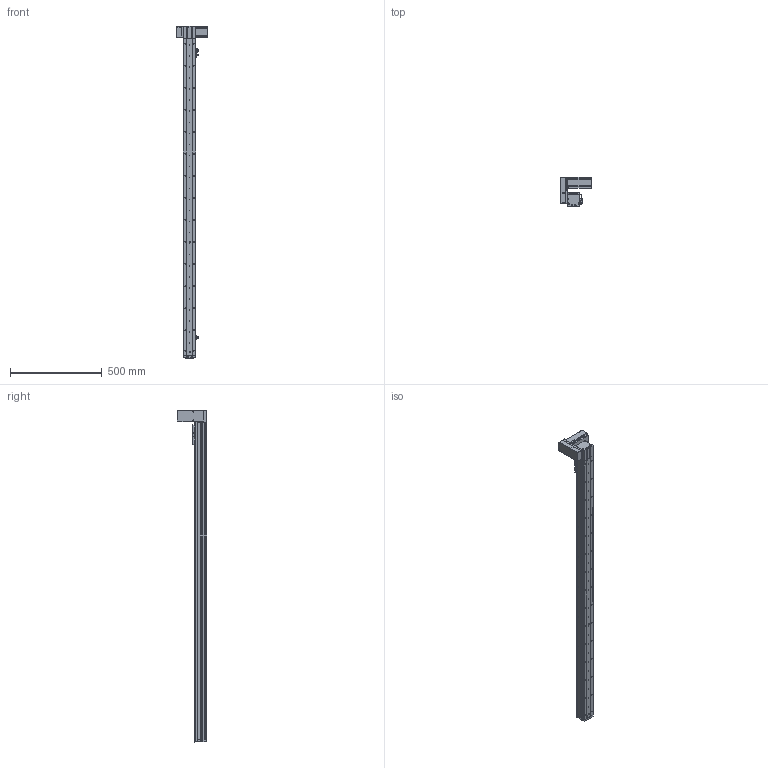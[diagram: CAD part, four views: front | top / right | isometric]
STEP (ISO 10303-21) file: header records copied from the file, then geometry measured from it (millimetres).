
FILE_DESCRIPTION (( 'STEP AP214' ), '1' );
FILE_NAME ('KSD68BS-S1550-MRU-CR.STEP', '2019-11-08T06:31:06', ( '微软用户' ), ( '微软中国' ), 'SwSTEP 2.0', 'SolidWorks 2014', '' );
FILE_SCHEMA (( 'AUTOMOTIVE_DESIGN' ));
Length unit declared in the file: millimetre
Products named in the file (14): KSD68BS 1550行程盖板全封闭; 68宽单导轨全封闭丝杆传动安装板1防护罩; 68遵裔啣揤啣1; KSD68BS 1550行程侧板全封闭; 68宽单导轨全封闭同步带端板; 68单导轨全封闭同步带电机座右; 68单导轨全封闭同步带安装板; 悵誘欶奻狟殏; 68宽马达安装板连板上折同步带; 感应片68宽全封闭; U倰嫖萇EEㄜSX672; 台达ECMA－C20604AS伺服电机（400W); KSD68BS 1550行程底板全封闭; KSD68BS-S1550-MRU-CR
Assembly tree (17 placements, depth 2):
  KSD68BS-S1550-MRU-CR
    KSD68BS 1550行程底板全封闭
    台达ECMA－C20604AS伺服电机（400W)
    U倰嫖萇EEㄜSX672  x3
    感应片68宽全封闭
    68宽马达安装板连板上折同步带
    悵誘欶奻狟殏
    68单导轨全封闭同步带安装板
    68单导轨全封闭同步带电机座右
    68宽单导轨全封闭同步带端板
    KSD68BS 1550行程侧板全封闭  x2
    68宽单导轨全封闭丝杆传动安装板1防护罩
    68遵裔啣揤啣1  x2
    KSD68BS 1550行程盖板全封闭
Bounding box: 167.2 x 159.5 x 1808.1 mm (x, y, z)
Volume: 3278182.7 mm3; surface area: 1321684.3 mm2
Topology: 18 solids, 18 shells, 1604 faces, 4617 edges, 2941 vertices
Faces by surface type: cylinder 785, plane 631, cone 188
Entity records: 52186 total; most frequent: CARTESIAN_POINT 9043, DIRECTION 7777, ORIENTED_EDGE 7438, EDGE_CURVE 3719, AXIS2_PLACEMENT_3D 2833, VERTEX_POINT 2439, VECTOR 2111, LINE 2111
